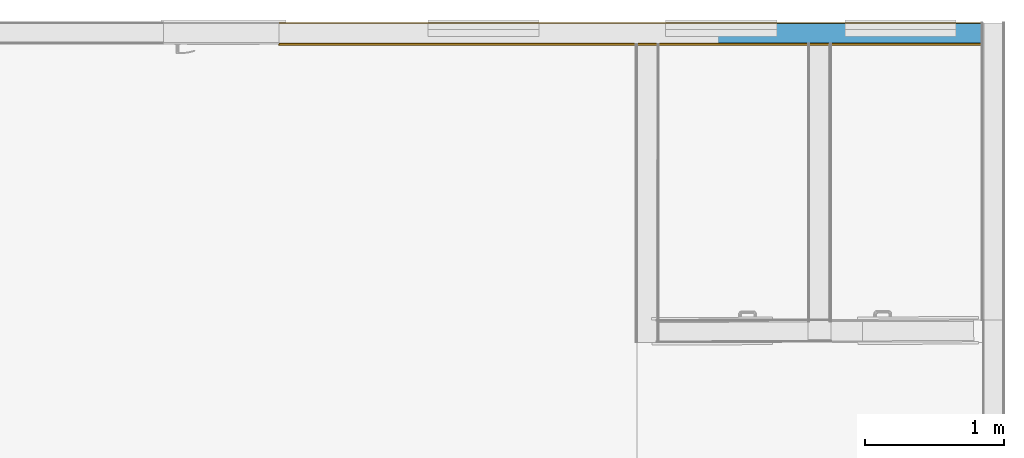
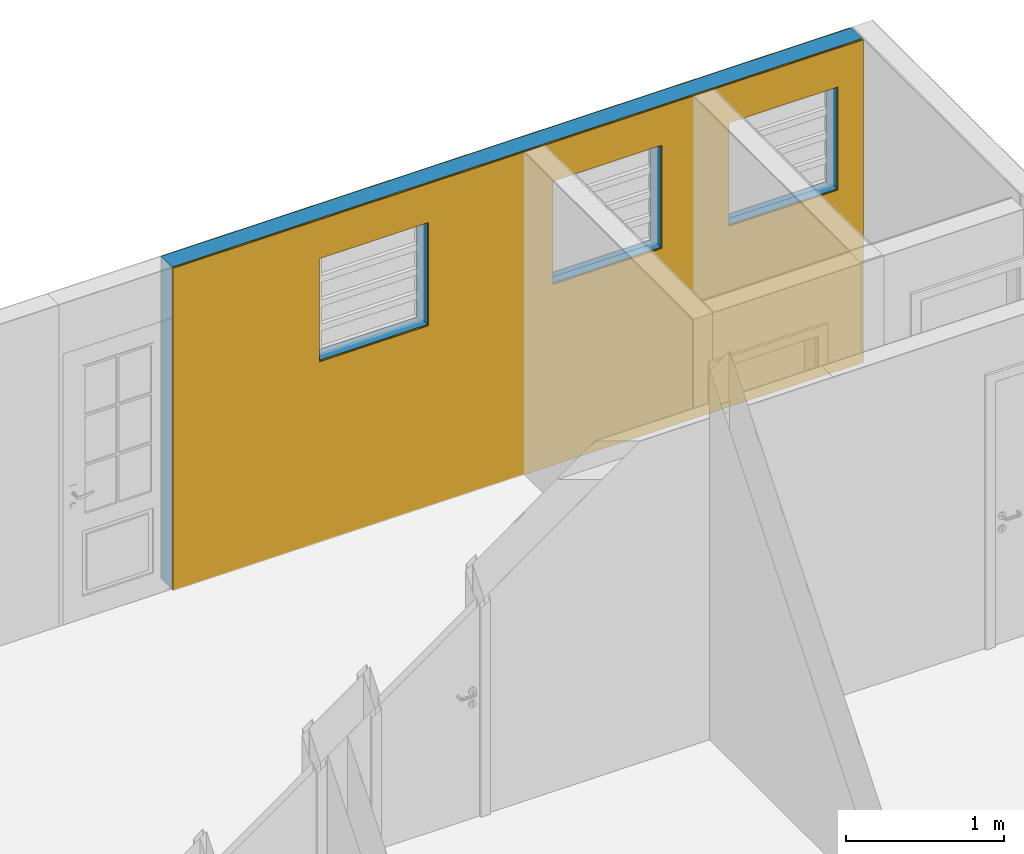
# One storey, part 9 of 11: 3 coverings, 1 building element part, 3 openings, 1 element without a shape of its own.
"""IFC2X3 building model written with IfcOpenShell, lengths in millimetres."""

from ifc_helpers import new_model, entity, si_unit, converted_unit, derived_unit, money_unit, direction, frame, origin_with_axes, origin_2d_with_axis, place, context, subcontext, project, spatial, polyline, rectangle, outline, extrude, material, type_object, element, aggregate, save


model = new_model("IFC2X3")

# Units and contexts
model_context = context("Model", 3, precision=0.01, world=origin_with_axes(), true_north=direction((0.0, 1.0)))
body_context = subcontext(model_context, "Body", "Model", "MODEL_VIEW")
ifc_project = project(units=[si_unit("LENGTHUNIT", "METRE", prefix="MILLI"), si_unit("AREAUNIT", "SQUARE_METRE"), si_unit("VOLUMEUNIT", "CUBIC_METRE"), converted_unit("PLANEANGLEUNIT", "DEGREE", entity("IfcPlaneAngleMeasure", 0.0174532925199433), si_unit("PLANEANGLEUNIT", "RADIAN"), dimensions=[0, 0, 0, 0, 0, 0, 0]), money_unit("USD"), converted_unit("TIMEUNIT", "Year", entity("IfcTimeMeasure", 31557600.0), si_unit("TIMEUNIT", "SECOND"), dimensions=[0, 0, 1, 0, 0, 0, 0]), si_unit("MASSUNIT", "GRAM", prefix="KILO"), si_unit("THERMODYNAMICTEMPERATUREUNIT", "DEGREE_CELSIUS"), si_unit("LUMINOUSINTENSITYUNIT", "LUMEN"), si_unit("ENERGYUNIT", "JOULE", prefix="MEGA"), derived_unit("THERMALCONDUCTANCEUNIT", [(si_unit("POWERUNIT", "WATT"), 1), (si_unit("LENGTHUNIT", "METRE"), -1), (si_unit("THERMODYNAMICTEMPERATUREUNIT", "KELVIN"), -1)]), derived_unit("SPECIFICHEATCAPACITYUNIT", [(si_unit("ENERGYUNIT", "JOULE"), 1), (si_unit("MASSUNIT", "GRAM", prefix="KILO"), -1), (si_unit("THERMODYNAMICTEMPERATUREUNIT", "KELVIN"), -1)]), derived_unit("MASSDENSITYUNIT", [(si_unit("MASSUNIT", "GRAM", prefix="KILO"), 1), (si_unit("VOLUMEUNIT", "CUBIC_METRE"), -1)])], contexts=[model_context])

# Site, building, storey
site_placement = place(None, origin_with_axes())
site = spatial("IfcSite", under=ifc_project, at=site_placement, Name="Local", CompositionType="ELEMENT")
building_placement = place(site_placement, origin_with_axes())
building = spatial("IfcBuilding", under=site, at=building_placement, Name="Construção", CompositionType="ELEMENT")
storey_placement = place(building_placement, origin_with_axes())
storey = spatial("IfcBuildingStorey", under=building, at=storey_placement, Name="Pavimento Térreo", CompositionType="ELEMENT", Elevation=0.0)

# Wall, openings, coverings, building element part
wall_type = type_object("IfcWallType", Name="Alvenaria 140, Rebocada + Azulejo 160", PredefinedType="NOTDEFINED")
wall_placement = place(storey_placement, frame((8340.0, 6449.999999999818, 0.0), z_axis=(0.0, 0.0, 1.0), x_axis=(-1.0, 0.0, 0.0)))
wall = element("IfcWall", 1, at=wall_placement, inside=storey, type_object=wall_type, Name="Parede-04 - Trecho 4")
opening_1_placement = place(wall_placement, frame((585.0000000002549, 0.0, 1400.0), z_axis=(0.0, 0.0, 1.0), x_axis=(1.0, 0.0, 0.0)))
element("IfcOpeningElement", 2, at=opening_1_placement, cuts=wall, Name="J06", context=body_context, shape_type="SweptSolid", body=[
    extrude(rectangle(XDim=800.0000000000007, YDim=800.0000000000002, at=origin_2d_with_axis()), frame((0.0, 50.00000000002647, 400.0000000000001), z_axis=(0.0, -1.0, 0.0), x_axis=(-1.0, 0.0, 0.0)), (0.0, 0.0, -1.0), 270.0000000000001),
    extrude(rectangle(XDim=800.0000000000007, YDim=800.0000000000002, at=origin_2d_with_axis()), frame((0.0, 50.00000000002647, 400.0000000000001), z_axis=(0.0, 1.0, 0.0), x_axis=(-1.0, 0.0, 0.0)), (0.0, 0.0, -1.0), 210.0),
    extrude(rectangle(XDim=800.0000000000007, YDim=30.00000000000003, at=origin_2d_with_axis()), frame((0.0, 85.0000000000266, -15.00000000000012), z_axis=(0.0, 1.0, 0.0), x_axis=(-1.0, 0.0, 0.0)), (0.0, 0.0, -1.0), 195.0),
])
opening_2_placement = place(wall_placement, frame((1875.0000000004, 0.0, 1400.0), z_axis=(0.0, 0.0, 1.0), x_axis=(1.0, 0.0, 0.0)))
element("IfcOpeningElement", 3, at=opening_2_placement, cuts=wall, Name="J07", context=body_context, shape_type="SweptSolid", body=[
    extrude(rectangle(XDim=800.0000000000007, YDim=800.0000000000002, at=origin_2d_with_axis()), frame((0.0, 50.0000000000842, 400.0000000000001), z_axis=(0.0, -1.0, 0.0), x_axis=(-1.0, 0.0, 0.0)), (0.0, 0.0, -1.0), 270.0000000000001),
    extrude(rectangle(XDim=800.0000000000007, YDim=800.0000000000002, at=origin_2d_with_axis()), frame((0.0, 50.0000000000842, 400.0000000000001), z_axis=(0.0, 1.0, 0.0), x_axis=(-1.0, 0.0, 0.0)), (0.0, 0.0, -1.0), 210.0),
    extrude(rectangle(XDim=800.0000000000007, YDim=30.00000000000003, at=origin_2d_with_axis()), frame((0.0, 85.00000000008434, -15.00000000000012), z_axis=(0.0, 1.0, 0.0), x_axis=(-1.0, 0.0, 0.0)), (0.0, 0.0, -1.0), 195.0),
])
opening_3_placement = place(wall_placement, frame((3587.078099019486, -1.616484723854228e-10, 1400.0), z_axis=(0.0, 0.0, 1.0), x_axis=(1.0, 0.0, 0.0)))
element("IfcOpeningElement", 4, at=opening_3_placement, cuts=wall, Name="J01", context=body_context, shape_type="SweptSolid", body=[
    extrude(rectangle(XDim=800.0000000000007, YDim=800.0000000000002, at=origin_2d_with_axis()), frame((0.0, 50.00000000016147, 400.0000000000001), z_axis=(0.0, -1.0, 0.0), x_axis=(-1.0, 0.0, 0.0)), (0.0, 0.0, -1.0), 270.0000000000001),
    extrude(rectangle(XDim=800.0000000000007, YDim=800.0000000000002, at=origin_2d_with_axis()), frame((0.0, 50.00000000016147, 400.0000000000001), z_axis=(0.0, 1.0, 0.0), x_axis=(-1.0, 0.0, 0.0)), (0.0, 0.0, -1.0), 210.0),
    extrude(rectangle(XDim=800.0000000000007, YDim=30.00000000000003, at=origin_2d_with_axis()), frame((0.0, 85.0000000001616, -15.00000000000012), z_axis=(0.0, 1.0, 0.0), x_axis=(-1.0, 0.0, 0.0)), (0.0, 0.0, -1.0), 195.0),
])
ifc_material_1 = material(Name="Reboco DEF")
covering_1_placement = place(wall_placement, origin_with_axes())
covering_1 = element("IfcCovering", 5, at=covering_1_placement, material=ifc_material_1, Name="Reboco DEF", PredefinedType="CLADDING", context=body_context, shape_type="SweptSolid", body=[
    extrude(outline(polyline([(0.0, 0.0), (5058.604726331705, 0.0), (5058.604726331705, 4.999999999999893), (0.0, 4.999999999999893), (0.0, 0.0)])), origin_with_axes(), (0.0, 0.0, 1.0), 2500.0),
])
ifc_material_2 = material(Name="Argamassa Colante DEF")
covering_2_placement = place(wall_placement, origin_with_axes())
covering_2 = element("IfcCovering", 6, at=covering_2_placement, material=ifc_material_2, Name="Argamassa Colante DEF", PredefinedType="CLADDING", context=body_context, shape_type="SweptSolid", body=[
    extrude(outline(polyline([(0.0, 145.0000000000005), (5058.604726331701, 145.0000000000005), (5058.604726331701, 155.0000000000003), (0.0, 155.0000000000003), (0.0, 145.0000000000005)])), origin_with_axes(), (0.0, 0.0, 1.0), 2500.0),
])
ifc_material_3 = material(Name="Azulejo DEF")
covering_3_placement = place(wall_placement, origin_with_axes())
covering_3 = element("IfcCovering", 7, at=covering_3_placement, material=ifc_material_3, Name="Azulejo DEF", PredefinedType="CLADDING", context=body_context, shape_type="SweptSolid", body=[
    extrude(outline(polyline([(0.0, 155.0000000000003), (5058.604726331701, 155.0000000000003), (5058.604726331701, 160.0000000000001), (0.0, 160.0000000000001), (0.0, 155.0000000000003)])), origin_with_axes(), (0.0, 0.0, 1.0), 2500.0),
])
ifc_material_4 = material(Name="Bloco de Concreto - Estrutural DEF")
building_element_part_placement = place(wall_placement, origin_with_axes())
building_element_part = element("IfcBuildingElementPart", 8, at=building_element_part_placement, material=ifc_material_4, Name="Bloco de Concreto - Estrutural DEF", context=body_context, shape_type="SweptSolid", body=[
    extrude(outline(polyline([(0.0, 4.999999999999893), (5058.604726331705, 4.999999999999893), (5058.604726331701, 145.0000000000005), (0.0, 145.0000000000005), (0.0, 4.999999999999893)])), origin_with_axes(), (0.0, 0.0, 1.0), 2500.0),
])
aggregate(wall, [covering_1, building_element_part, covering_2, covering_3])

save(model, "model.ifc")
